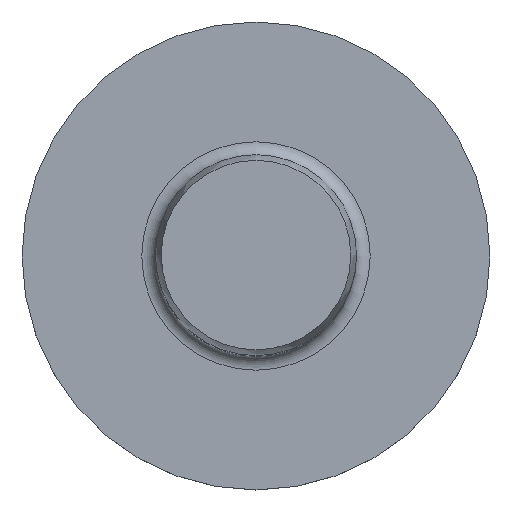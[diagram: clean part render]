
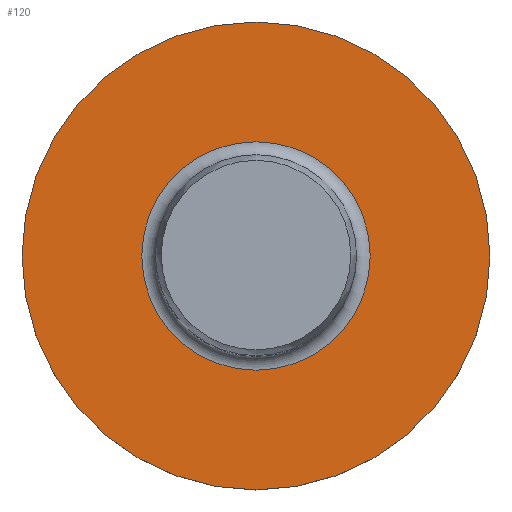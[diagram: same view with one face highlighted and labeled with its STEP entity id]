
A CAD part, top view. The second image highlights one B-rep face of the part: STEP entity #120.
In plain terms, the highlighted planar face has unit normal (0, 0, 1).
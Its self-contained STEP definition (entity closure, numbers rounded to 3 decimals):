
#25=FACE_BOUND('',#42,.T.);
#27=PLANE('',#156);
#32=FACE_OUTER_BOUND('',#41,.T.);
#41=EDGE_LOOP('',(#93));
#42=EDGE_LOOP('',(#94));
#53=CIRCLE('',#154,1.66);
#55=CIRCLE('',#157,3.4);
#65=VERTEX_POINT('',#221);
#66=VERTEX_POINT('',#226);
#75=EDGE_CURVE('',#65,#65,#53,.T.);
#77=EDGE_CURVE('',#66,#66,#55,.T.);
#93=ORIENTED_EDGE('',*,*,#77,.F.);
#94=ORIENTED_EDGE('',*,*,#75,.T.);
#120=ADVANCED_FACE('',(#32,#25),#27,.T.);
#154=AXIS2_PLACEMENT_3D('',#223,#179,#180);
#156=AXIS2_PLACEMENT_3D('',#225,#183,#184);
#157=AXIS2_PLACEMENT_3D('',#227,#185,#186);
#179=DIRECTION('center_axis',(0.,0.,-1.));
#180=DIRECTION('ref_axis',(1.,0.,0.));
#183=DIRECTION('center_axis',(0.,0.,1.));
#184=DIRECTION('ref_axis',(1.,0.,0.));
#185=DIRECTION('center_axis',(0.,0.,-1.));
#186=DIRECTION('ref_axis',(1.,0.,0.));
#221=CARTESIAN_POINT('',(1.66,0.,-7.3));
#223=CARTESIAN_POINT('Origin',(0.,0.,-7.3));
#225=CARTESIAN_POINT('Origin',(0.,3.4,-7.3));
#226=CARTESIAN_POINT('',(0.,-3.4,-7.3));
#227=CARTESIAN_POINT('Origin',(0.,0.,-7.3));
